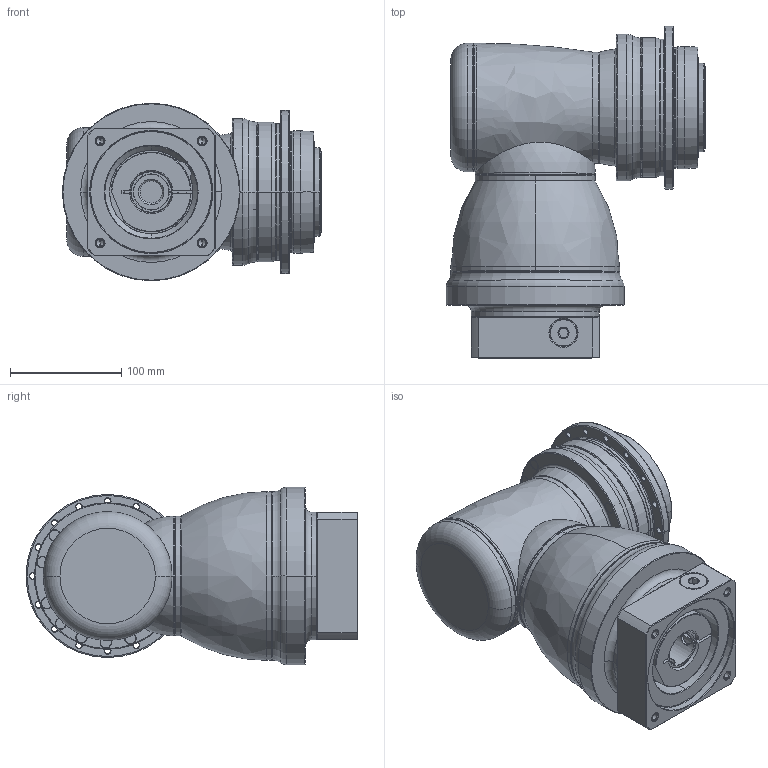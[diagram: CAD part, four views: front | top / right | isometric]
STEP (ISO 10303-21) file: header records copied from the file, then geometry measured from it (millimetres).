
FILE_DESCRIPTION((''),'2;1');
FILE_NAME('APK110_2ST_SBG_32-P0409710201_ASM','2018-10-30T',('d01226'),(''),'PRO/ENGINEER BY PARAMETRIC TECHNOLOGY CORPORATION, 2015240','PRO/ENGINEER BY PARAMETRIC TECHNOLOGY CORPORATION, 2015240','');
FILE_SCHEMA(('CONFIG_CONTROL_DESIGN'));
Length unit declared in the file: millimetre
Products named in the file (13): P0278401003; P0359401103; P1211400001; P1802410011; P1018500002; P1365500001; P1007501001; P1318501201; P0503700010; P0912552001; P0409710201; 21711418017; APK110_2ST_SBG_32-P0409710201_ASM
Assembly tree (12 placements, depth 2):
  APK110_2ST_SBG_32-P0409710201_ASM
    P0278401003
    P0359401103
    P1211400001
    P1802410011
    P1018500002
    P1365500001
    P1007501001
    P1318501201
    P0503700010
    P0912552001
    P0409710201
    21711418017
Bounding box: 233.5 x 299 x 160 mm (x, y, z)
Volume: 4746643.8 mm3; surface area: 494915.5 mm2
Topology: 13 solids, 34 shells, 792 faces, 1822 edges, 1118 vertices
Faces by surface type: cylinder 335, cone 199, plane 154, torus 83, bspline 19, sphere 2
Entity records: 27658 total; most frequent: CARTESIAN_POINT 8950, DIRECTION 4324, ORIENTED_EDGE 3486, AXIS2_PLACEMENT_3D 1862, EDGE_CURVE 1786, VERTEX_POINT 1118, CIRCLE 1054, EDGE_LOOP 938
